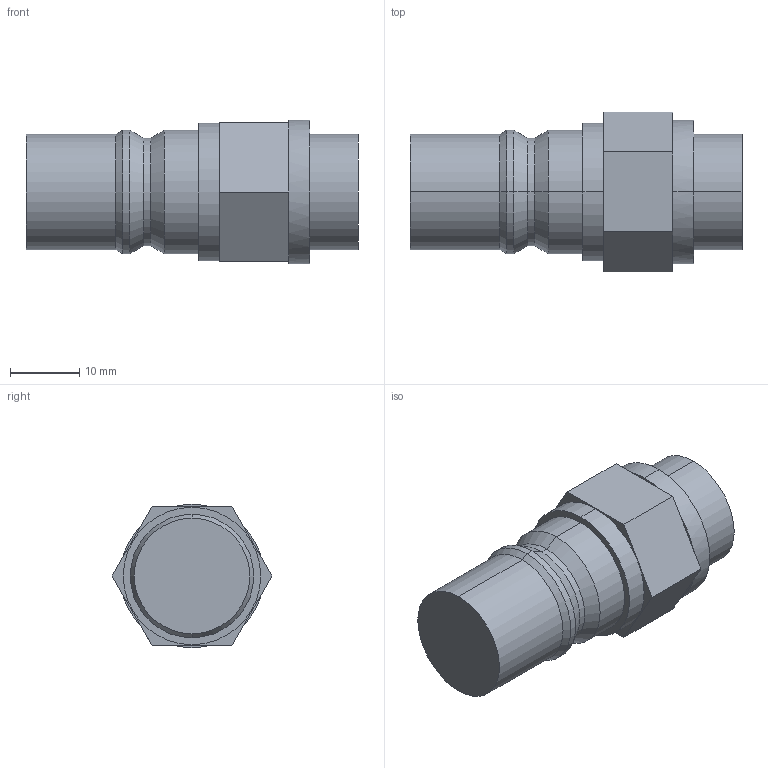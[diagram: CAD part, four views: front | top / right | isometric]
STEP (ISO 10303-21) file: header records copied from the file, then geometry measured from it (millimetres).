
FILE_DESCRIPTION (( 'STEP AP214' ), '1' );
FILE_NAME ('BR601.09 RRB 17.STEP', '2020-12-02T14:10:25', ( '' ), ( '' ), 'SwSTEP 2.0', 'SolidWorks 2018', '' );
FILE_SCHEMA (( 'AUTOMOTIVE_DESIGN' ));
Length unit declared in the file: millimetre
Products named in the file (1): BR601.09 RRB 17
Bounding box: 48 x 23.09 x 20.7 mm (x, y, z)
Volume: 12587.5 mm3; surface area: 3491.2 mm2
Topology: 1 solids, 1 shells, 43 faces, 90 edges, 52 vertices
Faces by surface type: plane 23, cylinder 14, cone 6
Entity records: 1166 total; most frequent: DIRECTION 218, CARTESIAN_POINT 186, ORIENTED_EDGE 180, EDGE_CURVE 90, AXIS2_PLACEMENT_3D 84, VERTEX_POINT 52, LINE 50, VECTOR 50
